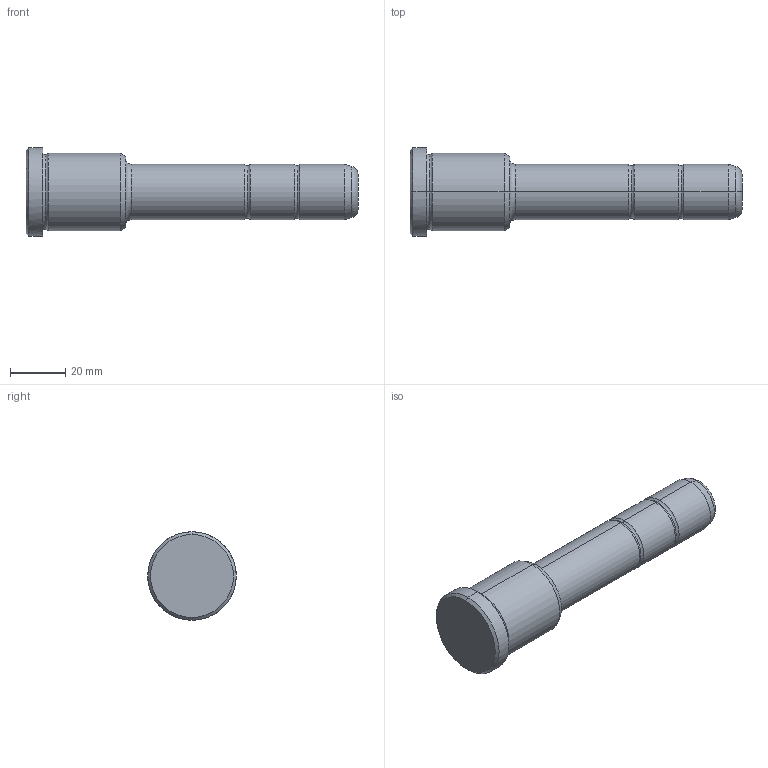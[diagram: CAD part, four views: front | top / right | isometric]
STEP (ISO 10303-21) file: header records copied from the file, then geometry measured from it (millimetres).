
FILE_DESCRIPTION(('CATIA V5 STEP Exchange'),'2;1');
FILE_NAME('C:\Users\Utente\Desktop\IO LAVORO\3D X SITO CF\X SITO\PLASTICA\351\351-20X36X120.stp','2021-08-27T12:23:17+00:00',('none'),('none'),'CATIA Version 5 Release 20 GA (IN-10)','CATIA V5 STEP AP203','none');
FILE_SCHEMA(('CONFIG_CONTROL_DESIGN'));
Length unit declared in the file: millimetre
Products named in the file (1): 351-20X36X120
Bounding box: 120 x 32 x 32 mm (x, y, z)
Volume: 49195.2 mm3; surface area: 9862.6 mm2
Topology: 1 solids, 1 shells, 36 faces, 102 edges, 70 vertices
Faces by surface type: torus 16, cylinder 10, cone 6, plane 4
Entity records: 1292 total; most frequent: CARTESIAN_POINT 321, ORIENTED_EDGE 204, DIRECTION 166, AXIS2_PLACEMENT_3D 115, EDGE_CURVE 102, CIRCLE 78, VERTEX_POINT 70, EDGE_LOOP 38
